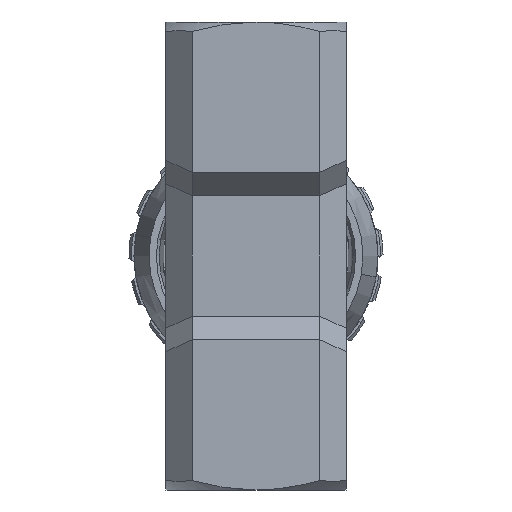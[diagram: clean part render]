
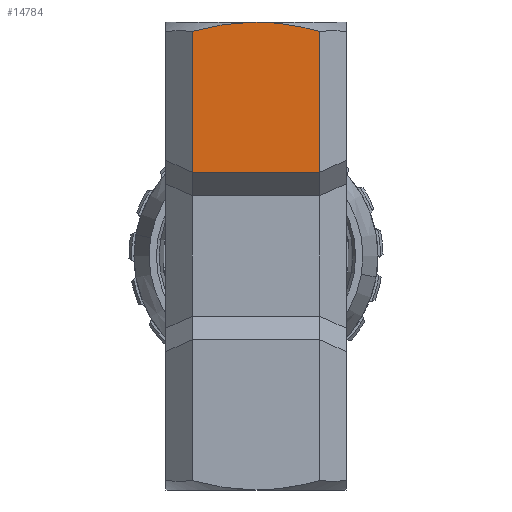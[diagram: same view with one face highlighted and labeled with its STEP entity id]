
A CAD part, front view. The second image highlights one B-rep face of the part: STEP entity #14784.
In plain terms, the highlighted planar face has unit normal (0, -1, 0).
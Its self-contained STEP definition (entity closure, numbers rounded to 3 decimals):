
#48 = CARTESIAN_POINT ( 'NONE',  ( 6.403, -13.5, 34.363 ) ) ;
#730 = FACE_OUTER_BOUND ( 'NONE', #9879, .T. ) ;
#1288 = EDGE_CURVE ( 'NONE', #20791, #27581, #12286, .T. ) ;
#2335 = CARTESIAN_POINT ( 'NONE',  ( 9.5, -13.5, 33.598 ) ) ;
#2542 = VERTEX_POINT ( 'NONE', #2869 ) ;
#2869 = CARTESIAN_POINT ( 'NONE',  ( -9.5, -13.5, 12.5 ) ) ;
#3732 = AXIS2_PLACEMENT_3D ( 'NONE', #7208, #23266, #9494 ) ;
#3954 = ORIENTED_EDGE ( 'NONE', *, *, #18508, .F. ) ;
#4862 = CARTESIAN_POINT ( 'NONE',  ( -9.5, -13.5, 33.598 ) ) ;
#4975 = ORIENTED_EDGE ( 'NONE', *, *, #12961, .T. ) ;
#5032 = CARTESIAN_POINT ( 'NONE',  ( -7.944, -13.5, 34.015 ) ) ;
#7053 = EDGE_CURVE ( 'NONE', #20791, #2542, #13945, .T. ) ;
#7208 = CARTESIAN_POINT ( 'NONE',  ( -13.5, -13.5, 35. ) ) ;
#7666 = CARTESIAN_POINT ( 'NONE',  ( 0., -13.5, 35. ) ) ;
#7899 = VECTOR ( 'NONE', #12958, 1000. ) ;
#8367 = CARTESIAN_POINT ( 'NONE',  ( -9.5, -13.5, 35. ) ) ;
#8912 = CARTESIAN_POINT ( 'NONE',  ( -6.36, -13.5, 34.371 ) ) ;
#9358 = CARTESIAN_POINT ( 'NONE',  ( 9.5, -13.5, 35. ) ) ;
#9494 = DIRECTION ( 'NONE',  ( 0., 0., 1. ) ) ;
#9596 = CARTESIAN_POINT ( 'NONE',  ( -9.5, -13.5, 33.598 ) ) ;
#9879 = EDGE_LOOP ( 'NONE', ( #19014, #15927, #4975, #21927, #3954 ) ) ;
#11440 = CARTESIAN_POINT ( 'NONE',  ( 1.6, -13.5, 34.967 ) ) ;
#11788 = EDGE_CURVE ( 'NONE', #27549, #12425, #13724, .T. ) ;
#11903 = CARTESIAN_POINT ( 'NONE',  ( -3.189, -13.5, 34.864 ) ) ;
#12132 = B_SPLINE_CURVE_WITH_KNOTS ( 'NONE', 3,
 ( #18264, #20589, #11440, #27485, #13701, #48, #16013, #2335 ),
 .UNSPECIFIED., .F., .F.,
 ( 4, 2, 2, 4 ),
 ( 0.023, 0.026, 0.028, 0.033 ),
 .UNSPECIFIED. ) ;
#12286 = B_SPLINE_CURVE_WITH_KNOTS ( 'NONE', 3,
 ( #9596, #5032, #8912, #11903, #27994, #16534 ),
 .UNSPECIFIED., .F., .F.,
 ( 4, 2, 4 ),
 ( 0.014, 0.018, 0.023 ),
 .UNSPECIFIED. ) ;
#12425 = VERTEX_POINT ( 'NONE', #26406 ) ;
#12958 = DIRECTION ( 'NONE',  ( 0., 0., -1. ) ) ;
#12961 = EDGE_CURVE ( 'NONE', #2542, #27549, #14984, .T. ) ;
#13701 = CARTESIAN_POINT ( 'NONE',  ( 4.011, -13.5, 34.737 ) ) ;
#13724 = LINE ( 'NONE', #9358, #19166 ) ;
#13945 = LINE ( 'NONE', #8367, #7899 ) ;
#14784 = ADVANCED_FACE ( 'NONE', ( #730 ), #27782, .F. ) ;
#14984 = LINE ( 'NONE', #24527, #21848 ) ;
#15927 = ORIENTED_EDGE ( 'NONE', *, *, #7053, .T. ) ;
#16013 = CARTESIAN_POINT ( 'NONE',  ( 7.962, -13.5, 34.01 ) ) ;
#16534 = CARTESIAN_POINT ( 'NONE',  ( 0., -13.5, 35. ) ) ;
#18264 = CARTESIAN_POINT ( 'NONE',  ( 0., -13.5, 35. ) ) ;
#18508 = EDGE_CURVE ( 'NONE', #27581, #12425, #12132, .T. ) ;
#19014 = ORIENTED_EDGE ( 'NONE', *, *, #1288, .F. ) ;
#19166 = VECTOR ( 'NONE', #25434, 1000. ) ;
#20589 = CARTESIAN_POINT ( 'NONE',  ( 0.799, -13.5, 35. ) ) ;
#20791 = VERTEX_POINT ( 'NONE', #4862 ) ;
#21848 = VECTOR ( 'NONE', #26955, 1000. ) ;
#21927 = ORIENTED_EDGE ( 'NONE', *, *, #11788, .T. ) ;
#23266 = DIRECTION ( 'NONE',  ( 0., 1., 0. ) ) ;
#23416 = CARTESIAN_POINT ( 'NONE',  ( 9.5, -13.5, 12.5 ) ) ;
#24527 = CARTESIAN_POINT ( 'NONE',  ( -13.5, -13.5, 12.5 ) ) ;
#25434 = DIRECTION ( 'NONE',  ( 0., 0., 1. ) ) ;
#26406 = CARTESIAN_POINT ( 'NONE',  ( 9.5, -13.5, 33.598 ) ) ;
#26955 = DIRECTION ( 'NONE',  ( 1., 0., 0. ) ) ;
#27485 = CARTESIAN_POINT ( 'NONE',  ( 3.204, -13.5, 34.836 ) ) ;
#27549 = VERTEX_POINT ( 'NONE', #23416 ) ;
#27581 = VERTEX_POINT ( 'NONE', #7666 ) ;
#27782 = PLANE ( 'NONE',  #3732 ) ;
#27994 = CARTESIAN_POINT ( 'NONE',  ( -1.598, -13.5, 35. ) ) ;
